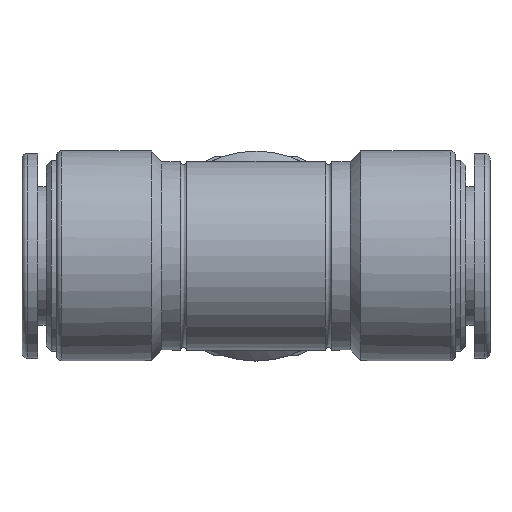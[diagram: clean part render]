
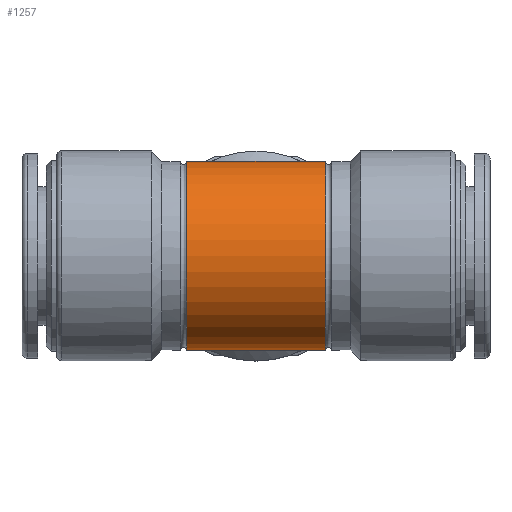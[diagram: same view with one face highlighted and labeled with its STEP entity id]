
A CAD part, top view. The second image highlights one B-rep face of the part: STEP entity #1257.
In plain terms, the highlighted cylindrical face has radius 9 mm (diameter 18 mm), a partial arc.
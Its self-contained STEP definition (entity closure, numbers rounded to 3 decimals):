
#23=ELLIPSE($,#1340,12.728,9.);
#24=ELLIPSE($,#1342,12.728,9.);
#27=ELLIPSE($,#1412,12.728,9.);
#28=ELLIPSE($,#1413,12.728,9.);
#216=CYLINDRICAL_SURFACE($,#1432,9.);
#293=FACE_OUTER_BOUND($,#404,.T.);
#404=EDGE_LOOP($,(#1142,#1143,#1144,#1145,#1146,#1147));
#442=CIRCLE($,#1329,9.);
#488=CIRCLE($,#1431,9.);
#575=VERTEX_POINT($,#2018);
#577=VERTEX_POINT($,#2026);
#584=VERTEX_POINT($,#2093);
#585=VERTEX_POINT($,#2094);
#627=VERTEX_POINT($,#2294);
#628=VERTEX_POINT($,#2303);
#713=EDGE_CURVE($,#575,#577,#442,.T.);
#723=EDGE_CURVE($,#584,#585,#23,.T.);
#725=EDGE_CURVE($,#577,#585,#24,.T.);
#789=EDGE_CURVE($,#628,#627,#27,.T.);
#790=EDGE_CURVE($,#628,#575,#28,.T.);
#810=EDGE_CURVE($,#627,#584,#488,.T.);
#1142=ORIENTED_EDGE($,*,*,#789,.T.);
#1143=ORIENTED_EDGE($,*,*,#810,.T.);
#1144=ORIENTED_EDGE($,*,*,#723,.T.);
#1145=ORIENTED_EDGE($,*,*,#725,.F.);
#1146=ORIENTED_EDGE($,*,*,#713,.F.);
#1147=ORIENTED_EDGE($,*,*,#790,.F.);
#1257=ADVANCED_FACE($,(#293),#216,.T.);
#1329=AXIS2_PLACEMENT_3D($,#2027,#1591,#1592);
#1340=AXIS2_PLACEMENT_3D($,#2095,#1614,#1615);
#1342=AXIS2_PLACEMENT_3D($,#2097,#1618,#1619);
#1412=AXIS2_PLACEMENT_3D($,#2304,#1771,#1772);
#1413=AXIS2_PLACEMENT_3D($,#2305,#1773,#1774);
#1431=AXIS2_PLACEMENT_3D($,#2350,#1817,#1818);
#1432=AXIS2_PLACEMENT_3D($,#2351,#1819,#1820);
#1591=DIRECTION('center_axis',(-1.,0.,0.));
#1592=DIRECTION('ref_axis',(0.,-1.,0.));
#1614=DIRECTION('center_axis',(0.707,0.,0.707));
#1615=DIRECTION('ref_axis',(0.707,0.,-0.707));
#1618=DIRECTION('center_axis',(0.707,0.,-0.707));
#1619=DIRECTION('ref_axis',(-0.707,0.,-0.707));
#1771=DIRECTION('center_axis',(0.707,0.,0.707));
#1772=DIRECTION('ref_axis',(0.707,0.,-0.707));
#1773=DIRECTION('center_axis',(0.707,0.,-0.707));
#1774=DIRECTION('ref_axis',(-0.707,0.,-0.707));
#1817=DIRECTION('center_axis',(-1.,0.,0.));
#1818=DIRECTION('ref_axis',(0.,-1.,0.));
#1819=DIRECTION('center_axis',(1.,0.,0.));
#1820=DIRECTION('ref_axis',(0.,-1.,0.));
#2018=CARTESIAN_POINT('',(-6.6,-6.119,-6.6));
#2026=CARTESIAN_POINT('',(-6.6,6.119,-6.6));
#2027=CARTESIAN_POINT('Origin',(-6.6,0.,0.));
#2093=CARTESIAN_POINT('',(6.6,6.119,-6.6));
#2094=CARTESIAN_POINT('',(0.,9.,0.));
#2095=CARTESIAN_POINT('Origin',(0.,0.,0.));
#2097=CARTESIAN_POINT('Origin',(0.,0.,0.));
#2294=CARTESIAN_POINT('',(6.6,-6.119,-6.6));
#2303=CARTESIAN_POINT('',(0.,-9.,0.));
#2304=CARTESIAN_POINT('Origin',(0.,0.,0.));
#2305=CARTESIAN_POINT('Origin',(0.,0.,0.));
#2350=CARTESIAN_POINT('Origin',(6.6,0.,0.));
#2351=CARTESIAN_POINT('Origin',(0.,0.,0.));
